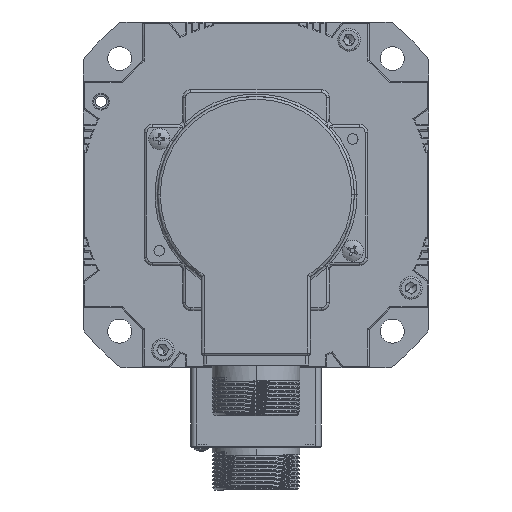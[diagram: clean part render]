
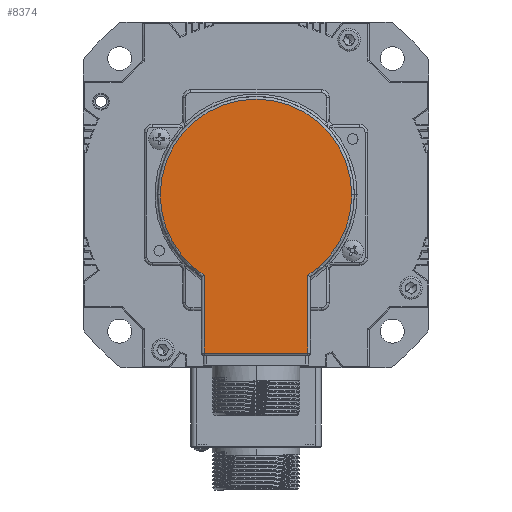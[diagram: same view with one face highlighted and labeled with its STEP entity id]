
A CAD part, front view. The second image highlights one B-rep face of the part: STEP entity #8374.
In plain terms, the highlighted planar face has unit normal (0, -1, 0) as drawn and (0, 0, -1) by its records, which use the part's own axes.
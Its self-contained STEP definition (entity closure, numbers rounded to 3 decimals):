
#321 = DIRECTION ( 'NONE',  ( 0., 1., 0. ) ) ;
#1224 = DIRECTION ( 'NONE',  ( 0., 0., -1. ) ) ;
#2825 = VERTEX_POINT ( 'NONE', #60886 ) ;
#5161 = EDGE_CURVE ( 'NONE', #46868, #14559, #20551, .T. ) ;
#6240 = AXIS2_PLACEMENT_3D ( 'NONE', #65711, #20065, #71700 ) ;
#6989 = DIRECTION ( 'NONE',  ( -1., 0., 0. ) ) ;
#8367 = AXIS2_PLACEMENT_3D ( 'NONE', #43093, #10716, #26914 ) ;
#8374 = ADVANCED_FACE ( 'NONE', ( #41605 ), #63296, .T. ) ;
#8677 = CIRCLE ( 'NONE', #37428, 36. ) ;
#9016 = AXIS2_PLACEMENT_3D ( 'NONE', #52295, #1224, #6989 ) ;
#10165 = EDGE_CURVE ( 'NONE', #32726, #33819, #66529, .T. ) ;
#10716 = DIRECTION ( 'NONE',  ( 0., 0., -1. ) ) ;
#14559 = VERTEX_POINT ( 'NONE', #28549 ) ;
#15142 = CARTESIAN_POINT ( 'NONE',  ( 20.5, 59.5, -33. ) ) ;
#17139 = EDGE_CURVE ( 'NONE', #43233, #32726, #19061, .T. ) ;
#18384 = DIRECTION ( 'NONE',  ( 0., -1., 0. ) ) ;
#19061 = LINE ( 'NONE', #51158, #22647 ) ;
#20065 = DIRECTION ( 'NONE',  ( 0., 0., -1. ) ) ;
#20551 = CIRCLE ( 'NONE', #8367, 36. ) ;
#22647 = VECTOR ( 'NONE', #321, 1000. ) ;
#23337 = EDGE_CURVE ( 'NONE', #33819, #2825, #46024, .T. ) ;
#26914 = DIRECTION ( 'NONE',  ( -1., 0., 0. ) ) ;
#28549 = CARTESIAN_POINT ( 'NONE',  ( -36., 0., -33. ) ) ;
#32726 = VERTEX_POINT ( 'NONE', #55226 ) ;
#33819 = VERTEX_POINT ( 'NONE', #40106 ) ;
#34485 = CARTESIAN_POINT ( 'NONE',  ( 36., 0., -33. ) ) ;
#37428 = AXIS2_PLACEMENT_3D ( 'NONE', #41269, #58230, #64710 ) ;
#38814 = DIRECTION ( 'NONE',  ( 1., 0., 0. ) ) ;
#40106 = CARTESIAN_POINT ( 'NONE',  ( 19.5, 59.5, -33. ) ) ;
#40669 = VECTOR ( 'NONE', #18384, 1000. ) ;
#41269 = CARTESIAN_POINT ( 'NONE',  ( 0., 0., -33. ) ) ;
#41454 = ORIENTED_EDGE ( 'NONE', *, *, #5161, .T. ) ;
#41605 = FACE_OUTER_BOUND ( 'NONE', #53388, .T. ) ;
#42911 = CIRCLE ( 'NONE', #6240, 36. ) ;
#43093 = CARTESIAN_POINT ( 'NONE',  ( 0., 0., -33. ) ) ;
#43233 = VERTEX_POINT ( 'NONE', #43539 ) ;
#43539 = CARTESIAN_POINT ( 'NONE',  ( -19.5, 30.261, -33. ) ) ;
#43647 = EDGE_CURVE ( 'NONE', #2825, #46868, #8677, .T. ) ;
#44655 = ORIENTED_EDGE ( 'NONE', *, *, #17139, .T. ) ;
#45951 = ORIENTED_EDGE ( 'NONE', *, *, #23337, .T. ) ;
#46024 = LINE ( 'NONE', #64274, #40669 ) ;
#46868 = VERTEX_POINT ( 'NONE', #34485 ) ;
#49920 = ORIENTED_EDGE ( 'NONE', *, *, #10165, .T. ) ;
#51158 = CARTESIAN_POINT ( 'NONE',  ( -19.5, 60.5, -33. ) ) ;
#52295 = CARTESIAN_POINT ( 'NONE',  ( 0., 0., -33. ) ) ;
#53388 = EDGE_LOOP ( 'NONE', ( #44655, #49920, #45951, #65513, #41454, #53394 ) ) ;
#53394 = ORIENTED_EDGE ( 'NONE', *, *, #68676, .T. ) ;
#55226 = CARTESIAN_POINT ( 'NONE',  ( -19.5, 59.5, -33. ) ) ;
#58230 = DIRECTION ( 'NONE',  ( 0., 0., -1. ) ) ;
#60886 = CARTESIAN_POINT ( 'NONE',  ( 19.5, 30.261, -33. ) ) ;
#63296 = PLANE ( 'NONE',  #9016 ) ;
#64274 = CARTESIAN_POINT ( 'NONE',  ( 19.5, 30.802, -33. ) ) ;
#64710 = DIRECTION ( 'NONE',  ( -1., 0., 0. ) ) ;
#65513 = ORIENTED_EDGE ( 'NONE', *, *, #43647, .T. ) ;
#65711 = CARTESIAN_POINT ( 'NONE',  ( 0., 0., -33. ) ) ;
#66529 = LINE ( 'NONE', #15142, #67398 ) ;
#67398 = VECTOR ( 'NONE', #38814, 1000. ) ;
#68676 = EDGE_CURVE ( 'NONE', #14559, #43233, #42911, .T. ) ;
#71700 = DIRECTION ( 'NONE',  ( -1., 0., 0. ) ) ;
